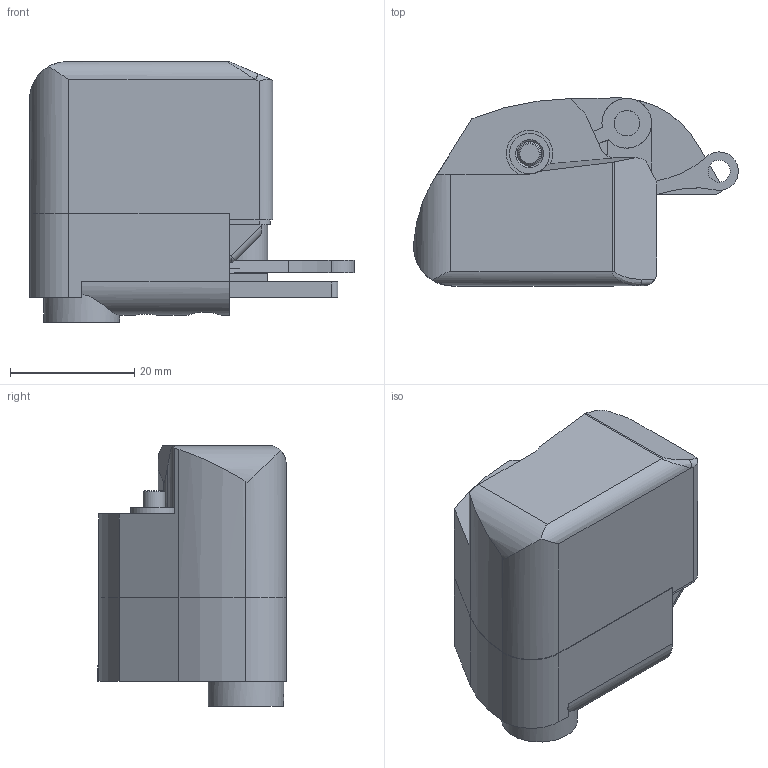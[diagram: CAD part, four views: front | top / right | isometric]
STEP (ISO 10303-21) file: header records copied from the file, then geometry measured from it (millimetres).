
FILE_DESCRIPTION((''),'2;1');
FILE_NAME('D:\_an13-14\FORMULAIRE_2014\Sujet E4 Poissy 2014\Modélisation3D_7970_shimano_2014\Ensemble 7970.stp','2014-01-15T12:07:15',('Laur'),(''),'Autodesk Inventor 2013','Autodesk Inventor 2013','');
FILE_SCHEMA(('AUTOMOTIVE_DESIGN { 1 0 10303 214 1 1 1 1 }'));
Length unit declared in the file: millimetre
Products named in the file (53): Ensemble 7970; Fond_boitier; Sous-ensemble 7970; platine PA-GF inter; cage et arbre-vis sans fin; cage_moto_reducteur; Mobile vis sans fin; vis sans fin arbrée; vis sans fin; Engrenages à vis sans fin; Vis sans fin; WA673SSA; WA673SSA_Inner_ring; WA673SSA_Outer_ring; WA673SSA_Shield; WA673SSA_Ball; RA144ZZA; RA144ZZA_Inner_ring; RA144ZZA_Outer_ring; RA144ZZA_Shield; RA144ZZA_Ball; Roue droite 43 dents module 0,3; Roue codeuse; Butée axiale vis sans fin; axe engr_cyl inter; Mobile intermédiaire 37 dents m0,25 - 10 dents m0,3; Pignon arbré creux 10 dents m0,3; Engrenages cylindriques; Engrenage cylindrique2; moteur DC; arbre moteur et pignon 11 dents m0,25; arbre moteur; Engrenage cylindrique1; connecteur; contacts connecteur; ISO 3601-1 hydraulique (Intérieurs) A 0035 G; PalierØ4-2_normal; mobile de sortie; arbre de sortie; secteur de roue de vis sans fin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
Assembly tree (72 placements, depth 7):
  Ensemble 7970
    Fond_boitier
    Sous-ensemble 7970
      platine PA-GF inter
      cage et arbre-vis sans fin
        cage_moto_reducteur
        Mobile vis sans fin
          vis sans fin arbrée
            vis sans fin
            Engrenages à vis sans fin
              Vis sans fin
          WA673SSA
            WA673SSA_Inner_ring
            WA673SSA_Outer_ring
            WA673SSA_Shield  x2
            WA673SSA_Ball  x9
          RA144ZZA
            RA144ZZA_Inner_ring
            RA144ZZA_Outer_ring
            RA144ZZA_Shield  x2
            RA144ZZA_Ball  x9
          Roue droite 43 dents module 0,3
          Roue codeuse
        Butée axiale vis sans fin
        axe engr_cyl inter
        Mobile intermédiaire 37 dents m0,25 - 10 dents m0,3
          Pignon arbré creux 10 dents m0,3
          Engrenages cylindriques
            Engrenage cylindrique2
        moteur DC
        arbre moteur et pignon 11 dents m0,25
          arbre moteur
          Engrenages cylindriques
            Engrenage cylindrique1
      connecteur
      contacts connecteur
      Butée axiale vis sans fin
    ISO 3601-1 hydraulique (Intérieurs) A 0035 G  x2
    PalierØ4-2_normal
    mobile de sortie
      arbre de sortie
      secteur de roue de vis sans fin
      maneton
      manivelle
    Montage PCB_FD
      PCB_FD
      capteur opto
    Support pistes capteur angulaire
    support_curseur_equipe
      support curseur
      curseur
    biellette
    PalierØ4-2_etroit
    Couvercle
Bounding box: 52.34 x 30.33 x 42 mm (x, y, z)
Volume: 21189.6 mm3; surface area: 28390 mm2
Topology: 61 solids, 61 shells, 1489 faces, 3966 edges, 2611 vertices
Faces by surface type: cylinder 758, plane 591, cone 76, torus 32, sphere 27, bspline 5
Full cylindrical faces by diameter (mm): 1 x16, 1.221 x2, 1.33 x2, 1.5 x3, 1.6 x6, 2 x8, 2.1 x1, 2.15 x2, 2.2 x1, 2.48 x2, 2.5 x2, 2.98 x1, 3 x3, 3.155 x1, 3.175 x1, 3.3 x3, 3.4 x3, 3.5 x2, 3.54 x7, 3.56 x2, 3.96 x6, 4 x9, 4.1 x2, 4.191 x4, 4.2 x4, 4.5 x5, 4.76 x1, 5 x7, 5.04 x2, 5.2 x1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
Entity records: 48453 total; most frequent: CARTESIAN_POINT 9657, DIRECTION 8324, ORIENTED_EDGE 7324, EDGE_CURVE 3662, AXIS2_PLACEMENT_3D 3271, VERTEX_POINT 2522, EDGE_LOOP 1800, VECTOR 1782
